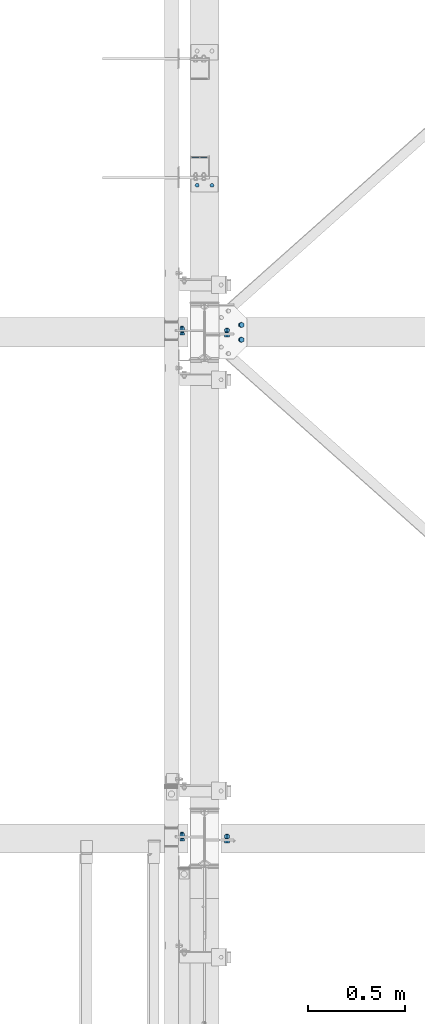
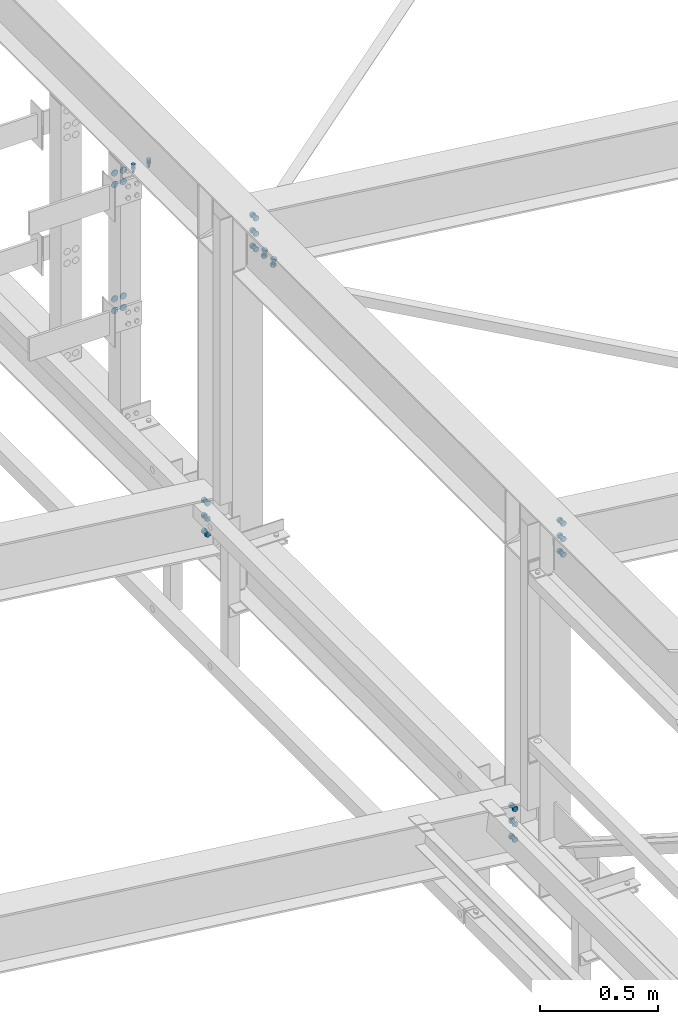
# One storey, part 145 of 3134: 8 mechanical fasteners, 6 elements without a shape of their own.
"""IFC2X3 building model written with IfcOpenShell, lengths in millimetres."""

import ifcopenshell
import ifcopenshell.guid

model = None  # the IFC model being written
_history = None  # IfcOwnerHistory: only IFC2X3 demands one
_inside = {}  # id of a spatial element -> (the spatial element, [elements in it])
_under = {}  # id of a project, library or spatial element -> (it, [spatial elements below it])
_declared = {}  # id of a project -> (the project, [libraries it declares])
_typed = {}  # id of a type object -> (the type object, [elements of that type])
_made_of = {}  # id of a material, layer set ... -> (it, [elements and type objects made of it])


def new_model(schema):
    """Start an empty IFC model of exactly this schema.

    Asked for "IFC4X3", IfcOpenShell would pick the latest addendum, in which some entities
    have other attributes; the version numbers below select the first issue.
    IFC2X3 requires an IfcOwnerHistory on every rooted entity: one is made here for all.
    """
    global model, _history
    if schema == "IFC4X3":
        model = ifcopenshell.file(schema_version=(4, 3, 0, 0))
    else:
        model = ifcopenshell.file(schema=schema)
    _inside.clear()
    _under.clear()
    _declared.clear()
    _typed.clear()
    _made_of.clear()
    _history = None
    if model.schema == "IFC2X3":
        org = make("IfcOrganization", Name="unknown")
        user = make(
            "IfcPersonAndOrganization",
            ThePerson=make("IfcPerson", FamilyName="unknown"),
            TheOrganization=org,
        )
        app = make(
            "IfcApplication",
            ApplicationDeveloper=org,
            Version="unknown",
            ApplicationFullName="unknown",
            ApplicationIdentifier="unknown",
        )
        _history = make(
            "IfcOwnerHistory",
            OwningUser=user,
            OwningApplication=app,
            ChangeAction="ADDED",
            CreationDate=0,
        )
    return model


def make(cls, **values):
    """One entity of the class cls with the attributes given. An attribute that is None is left unset."""
    return model.create_entity(
        cls, **{name: value for name, value in values.items() if value is not None}
    )


def rooted(cls, **values):
    """An entity with a GlobalId (a new one), such as an element, a storey or a relation."""
    return make(cls, GlobalId=ifcopenshell.guid.new(), OwnerHistory=_history, **values)


def si_unit(unit_type, name, prefix=None):
    """IfcSIUnit, for example si_unit("LENGTHUNIT", "METRE", prefix="MILLI")."""
    return make("IfcSIUnit", UnitType=unit_type, Prefix=prefix, Name=name)


def assignment(units):
    """IfcUnitAssignment: the units of a project."""
    return None if units is None else make("IfcUnitAssignment", Units=units)


def point(xyz):
    """IfcCartesianPoint."""
    return None if xyz is None else make("IfcCartesianPoint", Coordinates=xyz)


def direction(xyz):
    """IfcDirection."""
    return None if xyz is None else make("IfcDirection", DirectionRatios=xyz)


def frame(location, z_axis=None, x_axis=None):
    """IfcAxis2Placement3D, a coordinate frame: its origin and axes. An axis left out is left unset."""
    return make(
        "IfcAxis2Placement3D",
        Location=point(location),
        Axis=direction(z_axis),
        RefDirection=direction(x_axis),
    )


def origin_with_axes():
    """The frame at (0, 0, 0) with the z axis (0, 0, 1) and the x axis (1, 0, 0) written out."""
    return frame((0.0, 0.0, 0.0), z_axis=(0.0, 0.0, 1.0), x_axis=(1.0, 0.0, 0.0))


def place(relative_to, where):
    """IfcLocalPlacement: puts the frame where relative to a parent placement (None: the world)."""
    return make(
        "IfcLocalPlacement", PlacementRelTo=relative_to, RelativePlacement=where
    )


def context(
    kind, dimensions, precision=None, world=None, true_north=None, identifier=None
):
    """IfcGeometricRepresentationContext, for example the 3D "Model" context."""
    return make(
        "IfcGeometricRepresentationContext",
        ContextIdentifier=identifier,
        ContextType=kind,
        CoordinateSpaceDimension=dimensions,
        Precision=precision,
        WorldCoordinateSystem=world,
        TrueNorth=true_north,
    )


def subcontext(parent, identifier, kind, view, scale=None):
    """IfcGeometricRepresentationSubContext, for example "Body" below "Model"."""
    return make(
        "IfcGeometricRepresentationSubContext",
        ContextIdentifier=identifier,
        ContextType=kind,
        ParentContext=parent,
        TargetScale=scale,
        TargetView=view,
    )


def project(units=None, contexts=None):
    """IfcProject with its units and contexts."""
    return rooted(
        "IfcProject",
        Name="project",
        RepresentationContexts=contexts,
        UnitsInContext=assignment(units),
    )


def spatial(cls, under=None, at=None, **own):
    """A site, building, storey or space (cls), placed at a placement, below another one or the project."""
    s = rooted(cls, ObjectPlacement=at, **own)
    if under is not None:
        _under.setdefault(under.id(), (under, []))[1].append(s)
    return s


def faces_of(points, faces, orient=None, outer=None):
    """IfcFace entities. A face is a list of loops; a loop is a list of indices into points, from 0.

    orient and outer hold one flag for each loop. By default every Orientation is true, the
    first loop of a face is its IfcFaceOuterBound and the others are IfcFaceBound.
    """
    made = []
    for i, loops in enumerate(faces):
        bounds = []
        for j, loop in enumerate(loops):
            is_outer = j == 0 if outer is None else outer[i][j]
            bounds.append(
                make(
                    "IfcFaceOuterBound" if is_outer else "IfcFaceBound",
                    Bound=make("IfcPolyLoop", Polygon=[points[k] for k in loop]),
                    Orientation=True if orient is None else orient[i][j],
                )
            )
        made.append(make("IfcFace", Bounds=bounds))
    return made


def faceted_brep(points, faces, orient=None, outer=None, voids=None):
    """IfcFacetedBrep: a solid bounded by flat faces; with voids (closed shells), ...WithVoids."""
    shared = [point(p) for p in points]
    hull = make("IfcClosedShell", CfsFaces=faces_of(shared, faces, orient, outer))
    if voids is None:
        return make("IfcFacetedBrep", Outer=hull)
    return make(
        "IfcFacetedBrepWithVoids",
        Outer=hull,
        Voids=[
            make(cls, CfsFaces=faces_of(shared, fs, o, b)) for cls, fs, o, b in voids
        ],
    )


def shape(context_of_items, identifier, shape_type, items):
    """IfcShapeRepresentation: the items that make up one representation, for example the "Body"."""
    return make(
        "IfcShapeRepresentation",
        ContextOfItems=context_of_items,
        RepresentationIdentifier=identifier,
        RepresentationType=shape_type,
        Items=items,
    )


def source(mapping_origin, context_of_items, identifier, shape_type, items):
    """IfcRepresentationMap: a shape defined once, which mapped items show again and again."""
    return make(
        "IfcRepresentationMap",
        MappingOrigin=mapping_origin,
        MappedRepresentation=shape(context_of_items, identifier, shape_type, items),
    )


def transform(
    local_origin,
    x_axis=None,
    y_axis=None,
    z_axis=None,
    scale=None,
    scale2=None,
    scale3=None,
    uniform=True,
):
    """IfcCartesianTransformationOperator3D, or its non-uniform kind. x_axis, y_axis, z_axis: its Axis1, 2, 3."""
    if uniform:
        return make(
            "IfcCartesianTransformationOperator3D",
            Axis1=direction(x_axis),
            Axis2=direction(y_axis),
            LocalOrigin=point(local_origin),
            Scale=scale,
            Axis3=direction(z_axis),
        )
    return make(
        "IfcCartesianTransformationOperator3DnonUniform",
        Axis1=direction(x_axis),
        Axis2=direction(y_axis),
        LocalOrigin=point(local_origin),
        Scale=scale,
        Axis3=direction(z_axis),
        Scale2=scale2,
        Scale3=scale3,
    )


def mapped(mapping_source, mapping_target):
    """IfcMappedItem: shows the shape of a source again, moved by a transform."""
    return make(
        "IfcMappedItem", MappingSource=mapping_source, MappingTarget=mapping_target
    )


def material(Name=None, Category=None):
    """IfcMaterial."""
    return make("IfcMaterial", Name=Name, Category=Category)


def made_of(thing, what):
    """Note that an element or type object is made of a material, layer set ...; save() writes the relation."""
    if what is not None:
        _made_of.setdefault(what.id(), (what, []))[1].append(thing)
    return thing


def type_object(cls, material=None, **own):
    """A type object (cls), such as IfcWallType, which elements share."""
    return made_of(rooted(cls, **own), material)


def element(
    cls,
    number,
    at=None,
    inside=None,
    cuts=None,
    type_object=None,
    material=None,
    context=None,
    identifier="Body",
    shape_type=None,
    held_by="IfcProductDefinitionShape",
    body=None,
    shapes=None,
    **own,
):
    """One element of the class cls, such as IfcWall. Its Tag is "e" and its number.

    at: its placement. inside: the storey or other place that contains it. cuts: it is an
    opening in that element (IfcRelVoidsElement). A single representation is given by context,
    identifier, shape_type and body (its items); several are given by shapes. held_by: the class
    of the entity that holds the representations. save() writes the other relations.
    """
    e = rooted(cls, Tag="e%d" % number, ObjectPlacement=at, **own)
    if body is not None:
        shapes = [shape(context, identifier, shape_type, body)]
    if shapes is not None:
        e.Representation = make(held_by, Representations=shapes)
    if inside is not None:
        _inside.setdefault(inside.id(), (inside, []))[1].append(e)
    if cuts is not None:
        rooted(
            "IfcRelVoidsElement", RelatingBuildingElement=cuts, RelatedOpeningElement=e
        )
    if type_object is not None:
        _typed.setdefault(type_object.id(), (type_object, []))[1].append(e)
    return made_of(e, material)


def aggregate(whole, parts):
    """IfcRelAggregates: a whole, such as a stair, and the parts it consists of."""
    return rooted("IfcRelAggregates", RelatingObject=whole, RelatedObjects=parts)


def save(model, path):
    """Write the relations noted so far, then the file.

    IfcRelAggregates (storeys below a building ...), IfcRelContainedInSpatialStructure (elements
    in a storey), IfcRelDefinesByType, IfcRelAssociatesMaterial and IfcRelDeclares: one each for
    every whole, place, type object, material and project.
    """
    for whole, parts in _under.values():
        aggregate(whole, parts)
    for where, things in _inside.values():
        rooted(
            "IfcRelContainedInSpatialStructure",
            RelatedElements=things,
            RelatingStructure=where,
        )
    for kind, things in _typed.values():
        rooted("IfcRelDefinesByType", RelatedObjects=things, RelatingType=kind)
    for what, things in _made_of.values():
        rooted("IfcRelAssociatesMaterial", RelatedObjects=things, RelatingMaterial=what)
    for by, libraries in _declared.values():
        rooted("IfcRelDeclares", RelatingContext=by, RelatedDefinitions=libraries)
    model.write(path)


model = new_model("IFC2X3")

# Units and contexts
model_context = context("Model", 3, precision=1e-05, world=origin_with_axes())
body_context = subcontext(model_context, "Body", "Model", "MODEL_VIEW")
ifc_project = project(units=[si_unit("LENGTHUNIT", "METRE", prefix="MILLI"), si_unit("AREAUNIT", "SQUARE_METRE"), si_unit("VOLUMEUNIT", "CUBIC_METRE"), si_unit("MASSUNIT", "GRAM", prefix="KILO"), si_unit("TIMEUNIT", "SECOND"), si_unit("PLANEANGLEUNIT", "RADIAN"), si_unit("SOLIDANGLEUNIT", "STERADIAN"), si_unit("THERMODYNAMICTEMPERATUREUNIT", "DEGREE_CELSIUS"), si_unit("LUMINOUSINTENSITYUNIT", "LUMEN")], contexts=[model_context])

# Site, building, storey
site_placement = place(None, origin_with_axes())
site = spatial("IfcSite", under=ifc_project, at=site_placement, CompositionType="ELEMENT")
building_placement = place(site_placement, origin_with_axes())
building = spatial("IfcBuilding", under=site, at=building_placement, Name="Undefined", CompositionType="ELEMENT")
storey_placement = place(building_placement, origin_with_axes())
storey = spatial("IfcBuildingStorey", under=building, at=storey_placement, Name="Undefined", CompositionType="ELEMENT", Elevation=0.0)

# Assembly, mechanical fastener
assembly_1_placement = place(storey_placement, origin_with_axes())
assembly_1 = element("IfcElementAssembly", 1, at=assembly_1_placement, inside=storey, AssemblyPlace="NOTDEFINED", PredefinedType="RIGID_FRAME")
ifc_material = material(Name="8.8")
mechanical_fastener_type = type_object("IfcMechanicalFastenerType", Name="Bolt assembly")
shared_shape_1 = source(origin_with_axes(), body_context, "Body", "Brep", [
    faceted_brep([(10.9696551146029, -8.0, 0.0), (5.48482755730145, -8.0, 9.5), (-5.48482755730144, -8.0, 9.5), (-10.9696551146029, -8.0, 1.34339530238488e-15), (-5.48482755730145, -8.0, -9.5), (5.48482755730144, -8.0, -9.50000000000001), (5.48482755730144, 0.0, -9.50000000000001), (-5.48482755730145, 0.0, -9.5), (-10.9696551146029, 0.0, 1.34339530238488e-15), (-5.48482755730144, 0.0, 9.5), (5.48482755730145, 0.0, 9.5), (10.9696551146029, 0.0, 0.0), (6.0, 0.0, 0.0), (5.19615242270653, 0.0, 3.00000000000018), (2.99999999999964, 0.0, 5.19615242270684), (-6.21801588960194e-13, 0.0, 6.0), (-3.00000000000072, 0.0, 5.19615242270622), (-5.19615242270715, 0.0, 2.9999999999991), (-6.0, 0.0, -1.24360317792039e-12), (-5.19615242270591, 0.0, -3.00000000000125), (-2.99999999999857, 0.0, -5.19615242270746), (1.85874342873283e-12, 0.0, -6.0), (3.00000000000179, 0.0, -5.1961524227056), (5.19615242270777, 0.0, -2.99999999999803), (5.19615242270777, 35.0, -2.99999999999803), (3.00000000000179, 35.0, -5.1961524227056), (1.85874342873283e-12, 35.0, -6.0), (-2.99999999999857, 35.0, -5.19615242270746), (-5.19615242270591, 35.0, -3.00000000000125), (-6.0, 35.0, -1.24360317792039e-12), (-5.19615242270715, 35.0, 2.9999999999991), (-3.00000000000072, 35.0, 5.19615242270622), (-6.21801588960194e-13, 35.0, 6.0), (2.99999999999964, 35.0, 5.19615242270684), (5.19615242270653, 35.0, 3.00000000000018), (6.0, 35.0, 0.0), (10.9696551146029, 8.0, 0.0), (5.48482755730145, 8.0, 9.5), (-5.48482755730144, 8.0, 9.5), (-10.9696551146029, 8.0, 1.34339530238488e-15), (-5.48482755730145, 8.0, -9.5), (5.48482755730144, 8.0, -9.50000000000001), (5.48482755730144, 18.0, -9.50000000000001), (-5.48482755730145, 18.0, -9.5), (-10.9696551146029, 18.0, 1.34339530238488e-15), (-5.48482755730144, 18.0, 9.5), (5.48482755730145, 18.0, 9.5), (10.9696551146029, 18.0, 0.0)], [[[0, 1, 2, 3, 4, 5]], [[6, 7, 8, 9, 10, 11]], [[0, 11, 10, 1]], [[1, 10, 9, 2]], [[2, 9, 8, 3]], [[3, 8, 7, 4]], [[4, 7, 6, 5]], [[5, 6, 11, 0]], [[12, 13, 14, 15, 16, 17, 18, 19, 20, 21, 22, 23]], [[24, 25, 26, 27, 28, 29, 30, 31, 32, 33, 34, 35]], [[12, 35, 34, 13]], [[13, 34, 33, 14]], [[14, 33, 32, 15]], [[15, 32, 31, 16]], [[16, 31, 30, 17]], [[17, 30, 29, 18]], [[18, 29, 28, 19]], [[19, 28, 27, 20]], [[20, 27, 26, 21]], [[21, 26, 25, 22]], [[22, 25, 24, 23]], [[23, 24, 35, 12]], [[36, 37, 38, 39, 40, 41]], [[42, 43, 44, 45, 46, 47]], [[36, 47, 46, 37]], [[37, 46, 45, 38]], [[38, 45, 44, 39]], [[39, 44, 43, 40]], [[40, 43, 42, 41]], [[41, 42, 47, 36]]]),
    faceted_brep([(7.0, 0.0, 0.0), (6.06217782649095, 0.0, 3.50000000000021), (3.49999999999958, 0.0, 6.06217782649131), (-7.25435187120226e-13, 0.0, 7.0), (-3.50000000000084, 0.0, 6.06217782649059), (-6.06217782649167, 0.0, 3.49999999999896), (-7.0, 0.0, -1.45087037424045e-12), (-6.06217782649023, 0.0, -3.50000000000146), (-3.49999999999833, 0.0, -6.06217782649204), (2.1685340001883e-12, 0.0, -7.0), (3.50000000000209, 0.0, -6.06217782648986), (6.0621778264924, 0.0, -3.4999999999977), (6.0621778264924, 8.1, -3.4999999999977), (3.50000000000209, 8.1, -6.06217782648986), (2.1685340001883e-12, 8.1, -7.0), (-3.49999999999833, 8.1, -6.06217782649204), (-6.06217782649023, 8.1, -3.50000000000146), (-7.0, 8.1, -1.45087037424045e-12), (-6.06217782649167, 8.1, 3.49999999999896), (-3.50000000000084, 8.1, 6.06217782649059), (-7.25435187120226e-13, 8.1, 7.0), (3.49999999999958, 8.1, 6.06217782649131), (6.06217782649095, 8.1, 3.50000000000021), (7.0, 8.1, 0.0)], [[[0, 1, 2, 3, 4, 5, 6, 7, 8, 9, 10, 11]], [[12, 13, 14, 15, 16, 17, 18, 19, 20, 21, 22, 23]], [[0, 23, 22, 1]], [[1, 22, 21, 2]], [[2, 21, 20, 3]], [[3, 20, 19, 4]], [[4, 19, 18, 5]], [[5, 18, 17, 6]], [[6, 17, 16, 7]], [[7, 16, 15, 8]], [[8, 15, 14, 9]], [[9, 14, 13, 10]], [[10, 13, 12, 11]], [[11, 12, 23, 0]]]),
])
mechanical_fastener_1_placement = place(assembly_1_placement, frame((44162.0, 25405.0, 5593.0), z_axis=(0.0, 1.0, 0.0), x_axis=(1.0, 0.0, 0.0)))
mechanical_fastener_1 = element("IfcMechanicalFastener", 2, at=mechanical_fastener_1_placement, type_object=mechanical_fastener_type, material=ifc_material, Name="Bolt assembly", NominalDiameter=12.0, NominalLength=35.0, context=body_context, shape_type="MappedRepresentation", body=[
    mapped(shared_shape_1, transform((0.0, 0.0, 0.0))),
    mapped(shared_shape_1, transform((76.0, 0.0, 0.0))),
])
aggregate(assembly_1, [mechanical_fastener_1])

# Assembly, mechanical fasteners
assembly_2_placement = place(storey_placement, origin_with_axes())
assembly_2 = element("IfcElementAssembly", 3, at=assembly_2_placement, inside=storey, AssemblyPlace="NOTDEFINED", PredefinedType="RIGID_FRAME")
shared_shape_2 = source(origin_with_axes(), body_context, "Body", "Brep", [
    faceted_brep([(16.5, -4.0, 0.0), (14.289419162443, -4.0, 8.25000000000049), (8.24999999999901, -4.0, 14.2894191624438), (-1.70995436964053e-12, -4.0, 16.5), (-8.25000000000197, -4.0, 14.2894191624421), (-14.2894191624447, -4.0, 8.24999999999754), (-16.5, -4.0, -3.41990873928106e-12), (-14.2894191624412, -4.0, -8.25000000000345), (-8.24999999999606, -4.0, -14.2894191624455), (5.11154442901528e-12, -4.0, -16.5), (8.25000000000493, -4.0, -14.2894191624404), (14.2894191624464, -4.0, -8.24999999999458), (14.2894191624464, 0.1, -8.24999999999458), (8.25000000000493, 0.1, -14.2894191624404), (5.11154442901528e-12, 0.1, -16.5), (-8.24999999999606, 0.1, -14.2894191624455), (-14.2894191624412, 0.1, -8.25000000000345), (-16.5, 0.1, -3.41990873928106e-12), (-14.2894191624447, 0.1, 8.24999999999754), (-8.25000000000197, 0.1, 14.2894191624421), (-1.70995436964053e-12, 0.1, 16.5), (8.24999999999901, 0.1, 14.2894191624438), (14.289419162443, 0.1, 8.25000000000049), (16.5, 0.1, 0.0)], [[[0, 1, 2, 3, 4, 5, 6, 7, 8, 9, 10, 11]], [[12, 13, 14, 15, 16, 17, 18, 19, 20, 21, 22, 23]], [[0, 23, 22, 1]], [[1, 22, 21, 2]], [[2, 21, 20, 3]], [[3, 20, 19, 4]], [[4, 19, 18, 5]], [[5, 18, 17, 6]], [[6, 17, 16, 7]], [[7, 16, 15, 8]], [[8, 15, 14, 9]], [[9, 14, 13, 10]], [[10, 13, 12, 11]], [[11, 12, 23, 0]]]),
])
mechanical_fastener_2_placement = place(assembly_2_placement, frame((44175.0, 25550.0, 5470.0), z_axis=(1.0, 0.0, 0.0), x_axis=(0.0, 0.0, -1.0)))
mechanical_fastener_2 = element("IfcMechanicalFastener", 4, at=mechanical_fastener_2_placement, type_object=mechanical_fastener_type, material=ifc_material, Name="Bolt assembly", NominalDiameter=30.0, NominalLength=4.0, context=body_context, shape_type="MappedRepresentation", body=[
    mapped(shared_shape_2, transform((0.0, 0.0, -21.0))),
    mapped(shared_shape_2, transform((60.0, 0.0, -21.0))),
    mapped(shared_shape_2, transform((0.0, 0.0, 21.0))),
    mapped(shared_shape_2, transform((60.0, 0.0, 21.0))),
])
mechanical_fastener_3_placement = place(assembly_2_placement, frame((44175.0, 25550.0, 4820.0), z_axis=(1.0, 0.0, 0.0), x_axis=(0.0, 0.0, -1.0)))
mechanical_fastener_3 = element("IfcMechanicalFastener", 5, at=mechanical_fastener_3_placement, type_object=mechanical_fastener_type, material=ifc_material, Name="Bolt assembly", NominalDiameter=30.0, NominalLength=4.0, context=body_context, shape_type="MappedRepresentation", body=[
    mapped(shared_shape_2, transform((0.0, 0.0, -21.0))),
    mapped(shared_shape_2, transform((60.0, 0.0, -21.0))),
    mapped(shared_shape_2, transform((0.0, 0.0, 21.0))),
    mapped(shared_shape_2, transform((60.0, 0.0, 21.0))),
])
aggregate(assembly_2, [mechanical_fastener_2, mechanical_fastener_3])

# Assembly, mechanical fastener
assembly_3_placement = place(storey_placement, origin_with_axes())
assembly_3 = element("IfcElementAssembly", 6, at=assembly_3_placement, inside=storey, Name="300", AssemblyPlace="NOTDEFINED", PredefinedType="RIGID_FRAME")
shared_shape_3 = source(origin_with_axes(), body_context, "Body", "Brep", [
    faceted_brep([(13.856406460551, -19.199990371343, 0.0), (6.92820323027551, -19.199990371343, 12.0), (-6.92820323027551, -19.199990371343, 12.0), (-13.856406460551, -19.199990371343, 1.69692038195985e-15), (-6.92820323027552, -19.199990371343, -12.0), (6.9282032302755, -19.199990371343, -12.0), (6.9282032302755, -9.19999037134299, -12.0), (-6.92820323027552, -9.19999037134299, -12.0), (-13.856406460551, -9.19999037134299, 1.69692038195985e-15), (-6.92820323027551, -9.19999037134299, 12.0), (6.92820323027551, -9.19999037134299, 12.0), (13.856406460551, -9.19999037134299, 0.0), (8.0, -9.19999037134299, 0.0), (6.92820323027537, -9.19999037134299, 4.00000000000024), (3.99999999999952, -9.19999037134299, 6.92820323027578), (-8.29068785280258e-13, -9.19999037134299, 8.0), (-4.00000000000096, -9.19999037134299, 6.92820323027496), (-6.9282032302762, -9.19999037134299, 3.99999999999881), (-8.0, -9.19999037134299, -1.65813757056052e-12), (-6.92820323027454, -9.19999037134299, -4.00000000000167), (-3.99999999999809, -9.19999037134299, -6.92820323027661), (2.47832457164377e-12, -9.19999037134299, -8.0), (4.00000000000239, -9.19999037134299, -6.92820323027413), (6.92820323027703, -9.19999037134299, -3.99999999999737), (6.92820323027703, 25.800009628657, -3.99999999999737), (4.00000000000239, 25.800009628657, -6.92820323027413), (2.47832457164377e-12, 25.800009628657, -8.0), (-3.99999999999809, 25.800009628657, -6.92820323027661), (-6.92820323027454, 25.800009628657, -4.00000000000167), (-8.0, 25.800009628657, -1.65813757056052e-12), (-6.9282032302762, 25.800009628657, 3.99999999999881), (-4.00000000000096, 25.800009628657, 6.92820323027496), (-8.29068785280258e-13, 25.800009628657, 8.0), (3.99999999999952, 25.800009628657, 6.92820323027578), (6.92820323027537, 25.800009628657, 4.00000000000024), (8.0, 25.800009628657, 0.0), (13.856406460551, 8.00000637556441, 0.0), (6.92820323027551, 8.00000637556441, 12.0), (-6.92820323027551, 8.00000637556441, 12.0), (-13.856406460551, 8.00000637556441, 1.69692038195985e-15), (-6.92820323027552, 8.00000637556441, -12.0), (6.9282032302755, 8.00000637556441, -12.0), (6.9282032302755, 21.0000063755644, -12.0), (-6.92820323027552, 21.0000063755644, -12.0), (-13.856406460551, 21.0000063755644, 1.69692038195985e-15), (-6.92820323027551, 21.0000063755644, 12.0), (6.92820323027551, 21.0000063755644, 12.0), (13.856406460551, 21.0000063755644, 0.0)], [[[0, 1, 2, 3, 4, 5]], [[6, 7, 8, 9, 10, 11]], [[0, 11, 10, 1]], [[1, 10, 9, 2]], [[2, 9, 8, 3]], [[3, 8, 7, 4]], [[4, 7, 6, 5]], [[5, 6, 11, 0]], [[12, 13, 14, 15, 16, 17, 18, 19, 20, 21, 22, 23]], [[24, 25, 26, 27, 28, 29, 30, 31, 32, 33, 34, 35]], [[12, 35, 34, 13]], [[13, 34, 33, 14]], [[14, 33, 32, 15]], [[15, 32, 31, 16]], [[16, 31, 30, 17]], [[17, 30, 29, 18]], [[18, 29, 28, 19]], [[19, 28, 27, 20]], [[20, 27, 26, 21]], [[21, 26, 25, 22]], [[22, 25, 24, 23]], [[23, 24, 35, 12]], [[36, 37, 38, 39, 40, 41]], [[42, 43, 44, 45, 46, 47]], [[36, 47, 46, 37]], [[37, 46, 45, 38]], [[38, 45, 44, 39]], [[39, 44, 43, 40]], [[40, 43, 42, 41]], [[41, 42, 47, 36]]]),
    faceted_brep([(9.0, -0.1, 0.0), (7.79422863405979, -0.1, 4.50000000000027), (4.49999999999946, -0.1, 7.79422863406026), (-9.3270238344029e-13, -0.1, 9.0), (-4.50000000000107, -0.1, 7.79422863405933), (-7.79422863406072, -0.1, 4.49999999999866), (-9.0, -0.1, -1.86540476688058e-12), (-7.79422863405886, -0.1, -4.50000000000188), (-4.49999999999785, -0.1, -7.79422863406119), (2.78811514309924e-12, -0.1, -9.0), (4.50000000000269, -0.1, -7.7942286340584), (7.79422863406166, -0.1, -4.49999999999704), (7.79422863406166, 8.00000000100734, -4.49999999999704), (4.50000000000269, 8.00000000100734, -7.7942286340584), (2.78811514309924e-12, 8.00000000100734, -9.0), (-4.49999999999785, 8.00000000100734, -7.79422863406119), (-7.79422863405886, 8.00000000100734, -4.50000000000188), (-9.0, 8.00000000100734, -1.86540476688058e-12), (-7.79422863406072, 8.00000000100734, 4.49999999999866), (-4.50000000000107, 8.00000000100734, 7.79422863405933), (-9.3270238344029e-13, 8.00000000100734, 9.0), (4.49999999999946, 8.00000000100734, 7.79422863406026), (7.79422863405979, 8.00000000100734, 4.50000000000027), (9.0, 8.00000000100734, 0.0), (9.0, -9.09999037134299, 0.0), (7.79422863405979, -9.09999037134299, 4.50000000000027), (4.49999999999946, -9.09999037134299, 7.79422863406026), (-9.3270238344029e-13, -9.09999037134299, 9.0), (-4.50000000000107, -9.09999037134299, 7.79422863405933), (-7.79422863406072, -9.09999037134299, 4.49999999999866), (-9.0, -9.09999037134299, -1.86540476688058e-12), (-7.79422863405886, -9.09999037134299, -4.50000000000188), (-4.49999999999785, -9.09999037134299, -7.79422863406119), (2.78811514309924e-12, -9.09999037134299, -9.0), (4.50000000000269, -9.09999037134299, -7.7942286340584), (7.79422863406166, -9.09999037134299, -4.49999999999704), (7.79422863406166, 0.100000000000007, -4.49999999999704), (4.50000000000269, 0.100000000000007, -7.7942286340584), (2.78811514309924e-12, 0.100000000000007, -9.0), (-4.49999999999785, 0.100000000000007, -7.79422863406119), (-7.79422863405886, 0.100000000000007, -4.50000000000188), (-9.0, 0.100000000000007, -1.86540476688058e-12), (-7.79422863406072, 0.100000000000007, 4.49999999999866), (-4.50000000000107, 0.100000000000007, 7.79422863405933), (-9.3270238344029e-13, 0.100000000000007, 9.0), (4.49999999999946, 0.100000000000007, 7.79422863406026), (7.79422863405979, 0.100000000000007, 4.50000000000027), (9.0, 0.100000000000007, 0.0)], [[[0, 1, 2, 3, 4, 5, 6, 7, 8, 9, 10, 11]], [[12, 13, 14, 15, 16, 17, 18, 19, 20, 21, 22, 23]], [[0, 23, 22, 1]], [[1, 22, 21, 2]], [[2, 21, 20, 3]], [[3, 20, 19, 4]], [[4, 19, 18, 5]], [[5, 18, 17, 6]], [[6, 17, 16, 7]], [[7, 16, 15, 8]], [[8, 15, 14, 9]], [[9, 14, 13, 10]], [[10, 13, 12, 11]], [[11, 12, 23, 0]], [[24, 25, 26, 27, 28, 29, 30, 31, 32, 33, 34, 35]], [[36, 37, 38, 39, 40, 41, 42, 43, 44, 45, 46, 47]], [[24, 47, 46, 25]], [[25, 46, 45, 26]], [[26, 45, 44, 27]], [[27, 44, 43, 28]], [[28, 43, 42, 29]], [[29, 42, 41, 30]], [[30, 41, 40, 31]], [[31, 40, 39, 32]], [[32, 39, 38, 33]], [[33, 38, 37, 34]], [[34, 37, 36, 35]], [[35, 36, 47, 24]]]),
])
mechanical_fastener_4_placement = place(assembly_3_placement, frame((44389.2248161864, 24687.9995130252, 5496.68063426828), z_axis=(0.992623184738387, 1.63108538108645e-05, -0.12124031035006), x_axis=(1.62000016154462e-05, -0.999999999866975, -1.90000018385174e-06)))
mechanical_fastener_4 = element("IfcMechanicalFastener", 7, at=mechanical_fastener_4_placement, type_object=mechanical_fastener_type, material=ifc_material, Name="Bolt assembly", NominalDiameter=16.0, NominalLength=35.0, context=body_context, shape_type="MappedRepresentation", body=[
    mapped(shared_shape_3, transform((0.0, 0.0, 0.0))),
    mapped(shared_shape_3, transform((76.0, 0.0, 0.0))),
])

assembly_4_placement = place(storey_placement, origin_with_axes())
assembly_4 = element("IfcElementAssembly", 8, at=assembly_4_placement, inside=storey, Name="300", AssemblyPlace="NOTDEFINED", PredefinedType="RIGID_FRAME")
shared_shape_4 = source(origin_with_axes(), body_context, "Body", "Brep", [
    faceted_brep([(13.856406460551, -13.0499999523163, 0.0), (6.92820323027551, -13.0499999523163, 12.0), (-6.92820323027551, -13.0499999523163, 12.0), (-13.856406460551, -13.0499999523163, 1.69692038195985e-15), (-6.92820323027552, -13.0499999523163, -12.0), (6.9282032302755, -13.0499999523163, -12.0), (6.9282032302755, -3.04999995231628, -12.0), (-6.92820323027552, -3.04999995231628, -12.0), (-13.856406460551, -3.04999995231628, 1.69692038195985e-15), (-6.92820323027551, -3.04999995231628, 12.0), (6.92820323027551, -3.04999995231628, 12.0), (13.856406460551, -3.04999995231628, 0.0), (8.0, -3.04999995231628, 0.0), (6.92820323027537, -3.04999995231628, 4.00000000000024), (3.99999999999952, -3.04999995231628, 6.92820323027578), (-8.29068785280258e-13, -3.04999995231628, 8.0), (-4.00000000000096, -3.04999995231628, 6.92820323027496), (-6.9282032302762, -3.04999995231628, 3.99999999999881), (-8.0, -3.04999995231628, -1.65813757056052e-12), (-6.92820323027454, -3.04999995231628, -4.00000000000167), (-3.99999999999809, -3.04999995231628, -6.92820323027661), (2.47832457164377e-12, -3.04999995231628, -8.0), (4.00000000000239, -3.04999995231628, -6.92820323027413), (6.92820323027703, -3.04999995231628, -3.99999999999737), (6.92820323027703, 31.9500000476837, -3.99999999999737), (4.00000000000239, 31.9500000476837, -6.92820323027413), (2.47832457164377e-12, 31.9500000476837, -8.0), (-3.99999999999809, 31.9500000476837, -6.92820323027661), (-6.92820323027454, 31.9500000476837, -4.00000000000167), (-8.0, 31.9500000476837, -1.65813757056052e-12), (-6.9282032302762, 31.9500000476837, 3.99999999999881), (-4.00000000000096, 31.9500000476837, 6.92820323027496), (-8.29068785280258e-13, 31.9500000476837, 8.0), (3.99999999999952, 31.9500000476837, 6.92820323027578), (6.92820323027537, 31.9500000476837, 4.00000000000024), (8.0, 31.9500000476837, 0.0), (13.856406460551, 13.0500000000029, 0.0), (6.92820323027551, 13.0500000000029, 12.0), (-6.92820323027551, 13.0500000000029, 12.0), (-13.856406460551, 13.0500000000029, 1.69692038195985e-15), (-6.92820323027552, 13.0500000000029, -12.0), (6.9282032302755, 13.0500000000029, -12.0), (6.9282032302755, 26.0500000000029, -12.0), (-6.92820323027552, 26.0500000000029, -12.0), (-13.856406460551, 26.0500000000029, 1.69692038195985e-15), (-6.92820323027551, 26.0500000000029, 12.0), (6.92820323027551, 26.0500000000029, 12.0), (13.856406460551, 26.0500000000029, 0.0)], [[[0, 1, 2, 3, 4, 5]], [[6, 7, 8, 9, 10, 11]], [[0, 11, 10, 1]], [[1, 10, 9, 2]], [[2, 9, 8, 3]], [[3, 8, 7, 4]], [[4, 7, 6, 5]], [[5, 6, 11, 0]], [[12, 13, 14, 15, 16, 17, 18, 19, 20, 21, 22, 23]], [[24, 25, 26, 27, 28, 29, 30, 31, 32, 33, 34, 35]], [[12, 35, 34, 13]], [[13, 34, 33, 14]], [[14, 33, 32, 15]], [[15, 32, 31, 16]], [[16, 31, 30, 17]], [[17, 30, 29, 18]], [[18, 29, 28, 19]], [[19, 28, 27, 20]], [[20, 27, 26, 21]], [[21, 26, 25, 22]], [[22, 25, 24, 23]], [[23, 24, 35, 12]], [[36, 37, 38, 39, 40, 41]], [[42, 43, 44, 45, 46, 47]], [[36, 47, 46, 37]], [[37, 46, 45, 38]], [[38, 45, 44, 39]], [[39, 44, 43, 40]], [[40, 43, 42, 41]], [[41, 42, 47, 36]]]),
    faceted_brep([(9.0, 2.95000000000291, 0.0), (7.79422863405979, 2.95000000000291, 4.50000000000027), (4.49999999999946, 2.95000000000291, 7.79422863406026), (-9.3270238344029e-13, 2.95000000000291, 9.0), (-4.50000000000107, 2.95000000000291, 7.79422863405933), (-7.79422863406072, 2.95000000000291, 4.49999999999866), (-9.0, 2.95000000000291, -1.86540476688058e-12), (-7.79422863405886, 2.95000000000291, -4.50000000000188), (-4.49999999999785, 2.95000000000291, -7.79422863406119), (2.78811514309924e-12, 2.95000000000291, -9.0), (4.50000000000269, 2.95000000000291, -7.7942286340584), (7.79422863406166, 2.95000000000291, -4.49999999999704), (7.79422863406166, 13.0500000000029, -4.49999999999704), (4.50000000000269, 13.0500000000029, -7.7942286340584), (2.78811514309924e-12, 13.0500000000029, -9.0), (-4.49999999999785, 13.0500000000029, -7.79422863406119), (-7.79422863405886, 13.0500000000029, -4.50000000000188), (-9.0, 13.0500000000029, -1.86540476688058e-12), (-7.79422863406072, 13.0500000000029, 4.49999999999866), (-4.50000000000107, 13.0500000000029, 7.79422863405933), (-9.3270238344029e-13, 13.0500000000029, 9.0), (4.49999999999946, 13.0500000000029, 7.79422863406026), (7.79422863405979, 13.0500000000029, 4.50000000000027), (9.0, 13.0500000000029, 0.0), (9.0, -2.94999995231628, 0.0), (7.79422863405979, -2.94999995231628, 4.50000000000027), (4.49999999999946, -2.94999995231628, 7.79422863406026), (-9.3270238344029e-13, -2.94999995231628, 9.0), (-4.50000000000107, -2.94999995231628, 7.79422863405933), (-7.79422863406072, -2.94999995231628, 4.49999999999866), (-9.0, -2.94999995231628, -1.86540476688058e-12), (-7.79422863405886, -2.94999995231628, -4.50000000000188), (-4.49999999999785, -2.94999995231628, -7.79422863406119), (2.78811514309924e-12, -2.94999995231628, -9.0), (4.50000000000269, -2.94999995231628, -7.7942286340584), (7.79422863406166, -2.94999995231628, -4.49999999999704), (7.79422863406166, 3.14999995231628, -4.49999999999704), (4.50000000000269, 3.14999995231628, -7.7942286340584), (2.78811514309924e-12, 3.14999995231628, -9.0), (-4.49999999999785, 3.14999995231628, -7.79422863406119), (-7.79422863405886, 3.14999995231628, -4.50000000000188), (-9.0, 3.14999995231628, -1.86540476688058e-12), (-7.79422863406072, 3.14999995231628, 4.49999999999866), (-4.50000000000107, 3.14999995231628, 7.79422863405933), (-9.3270238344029e-13, 3.14999995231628, 9.0), (4.49999999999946, 3.14999995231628, 7.79422863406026), (7.79422863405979, 3.14999995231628, 4.50000000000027), (9.0, 3.14999995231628, 0.0)], [[[0, 1, 2, 3, 4, 5, 6, 7, 8, 9, 10, 11]], [[12, 13, 14, 15, 16, 17, 18, 19, 20, 21, 22, 23]], [[0, 23, 22, 1]], [[1, 22, 21, 2]], [[2, 21, 20, 3]], [[3, 20, 19, 4]], [[4, 19, 18, 5]], [[5, 18, 17, 6]], [[6, 17, 16, 7]], [[7, 16, 15, 8]], [[8, 15, 14, 9]], [[9, 14, 13, 10]], [[10, 13, 12, 11]], [[11, 12, 23, 0]], [[24, 25, 26, 27, 28, 29, 30, 31, 32, 33, 34, 35]], [[36, 37, 38, 39, 40, 41, 42, 43, 44, 45, 46, 47]], [[24, 47, 46, 25]], [[25, 46, 45, 26]], [[26, 45, 44, 27]], [[27, 44, 43, 28]], [[28, 43, 42, 29]], [[29, 42, 41, 30]], [[30, 41, 40, 31]], [[31, 40, 39, 32]], [[32, 39, 38, 33]], [[33, 38, 37, 34]], [[34, 37, 36, 35]], [[35, 36, 47, 24]]]),
])
mechanical_fastener_5_placement = place(assembly_4_placement, frame((44085.0, 24650.0, 4337.44269270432), z_axis=(1.0, 0.0, 0.0), x_axis=(0.0, 0.0, -1.0)))
mechanical_fastener_5 = element("IfcMechanicalFastener", 9, at=mechanical_fastener_5_placement, type_object=mechanical_fastener_type, material=ifc_material, Name="Bolt assembly", NominalDiameter=16.0, NominalLength=35.0, context=body_context, shape_type="MappedRepresentation", body=[
    mapped(shared_shape_4, transform((0.0, 0.0, 0.0))),
    mapped(shared_shape_4, transform((80.0, 0.0, 0.0))),
    mapped(shared_shape_4, transform((160.0, 0.0, 0.0))),
])
aggregate(assembly_4, [mechanical_fastener_5])

assembly_5_placement = place(storey_placement, origin_with_axes())
assembly_5 = element("IfcElementAssembly", 10, at=assembly_5_placement, inside=storey, Name="300", AssemblyPlace="NOTDEFINED", PredefinedType="RIGID_FRAME")
mechanical_fastener_6_placement = place(assembly_5_placement, frame((44085.0, 22050.0, 4337.44269270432), z_axis=(1.0, 0.0, 0.0), x_axis=(0.0, 0.0, -1.0)))
mechanical_fastener_6 = element("IfcMechanicalFastener", 11, at=mechanical_fastener_6_placement, type_object=mechanical_fastener_type, material=ifc_material, Name="Bolt assembly", NominalDiameter=16.0, NominalLength=35.0, context=body_context, shape_type="MappedRepresentation", body=[
    mapped(shared_shape_4, transform((0.0, 0.0, 0.0))),
    mapped(shared_shape_4, transform((80.0, 0.0, 0.0))),
    mapped(shared_shape_4, transform((160.0, 0.0, 0.0))),
])
aggregate(assembly_5, [mechanical_fastener_6])

assembly_6_placement = place(storey_placement, origin_with_axes())
assembly_6 = element("IfcElementAssembly", 12, at=assembly_6_placement, inside=storey, Name="300", AssemblyPlace="NOTDEFINED", PredefinedType="RIGID_FRAME")
shared_shape_5 = source(origin_with_axes(), body_context, "Body", "Brep", [
    faceted_brep([(13.856406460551, -23.0499999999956, 0.0), (6.92820323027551, -23.0499999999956, 12.0), (-6.92820323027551, -23.0499999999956, 12.0), (-13.856406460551, -23.0499999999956, 1.69692038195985e-15), (-6.92820323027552, -23.0499999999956, -12.0), (6.9282032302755, -23.0499999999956, -12.0), (6.9282032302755, -13.0499999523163, -12.0), (-6.92820323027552, -13.0499999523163, -12.0), (-13.856406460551, -13.0499999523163, 1.69692038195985e-15), (-6.92820323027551, -13.0499999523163, 12.0), (6.92820323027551, -13.0499999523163, 12.0), (13.856406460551, -13.0499999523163, 0.0), (8.0, -13.0499999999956, 0.0), (6.92820323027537, -13.0499999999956, 4.00000000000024), (3.99999999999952, -13.0499999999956, 6.92820323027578), (-8.29068785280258e-13, -13.0499999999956, 8.0), (-4.00000000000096, -13.0499999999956, 6.92820323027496), (-6.9282032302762, -13.0499999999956, 3.99999999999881), (-8.0, -13.0499999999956, -1.65813757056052e-12), (-6.92820323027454, -13.0499999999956, -4.00000000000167), (-3.99999999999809, -13.0499999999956, -6.92820323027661), (2.47832457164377e-12, -13.0499999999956, -8.0), (4.00000000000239, -13.0499999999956, -6.92820323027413), (6.92820323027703, -13.0499999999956, -3.99999999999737), (6.92820323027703, 21.9500000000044, -3.99999999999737), (4.00000000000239, 21.9500000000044, -6.92820323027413), (2.47832457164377e-12, 21.9500000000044, -8.0), (-3.99999999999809, 21.9500000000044, -6.92820323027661), (-6.92820323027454, 21.9500000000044, -4.00000000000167), (-8.0, 21.9500000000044, -1.65813757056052e-12), (-6.9282032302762, 21.9500000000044, 3.99999999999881), (-4.00000000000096, 21.9500000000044, 6.92820323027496), (-8.29068785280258e-13, 21.9500000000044, 8.0), (3.99999999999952, 21.9500000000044, 6.92820323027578), (6.92820323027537, 21.9500000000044, 4.00000000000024), (8.0, 21.9500000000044, 0.0), (13.856406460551, 3.04999995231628, 0.0), (6.92820323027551, 3.04999995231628, 12.0), (-6.92820323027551, 3.04999995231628, 12.0), (-13.856406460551, 3.04999995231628, 1.69692038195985e-15), (-6.92820323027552, 3.04999995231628, -12.0), (6.9282032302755, 3.04999995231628, -12.0), (6.9282032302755, 16.0499999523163, -12.0), (-6.92820323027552, 16.0499999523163, -12.0), (-13.856406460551, 16.0499999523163, 1.69692038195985e-15), (-6.92820323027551, 16.0499999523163, 12.0), (6.92820323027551, 16.0499999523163, 12.0), (13.856406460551, 16.0499999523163, 0.0)], [[[0, 1, 2, 3, 4, 5]], [[6, 7, 8, 9, 10, 11]], [[0, 11, 10, 1]], [[1, 10, 9, 2]], [[2, 9, 8, 3]], [[3, 8, 7, 4]], [[4, 7, 6, 5]], [[5, 6, 11, 0]], [[12, 13, 14, 15, 16, 17, 18, 19, 20, 21, 22, 23]], [[24, 25, 26, 27, 28, 29, 30, 31, 32, 33, 34, 35]], [[12, 35, 34, 13]], [[13, 34, 33, 14]], [[14, 33, 32, 15]], [[15, 32, 31, 16]], [[16, 31, 30, 17]], [[17, 30, 29, 18]], [[18, 29, 28, 19]], [[19, 28, 27, 20]], [[20, 27, 26, 21]], [[21, 26, 25, 22]], [[22, 25, 24, 23]], [[23, 24, 35, 12]], [[36, 37, 38, 39, 40, 41]], [[42, 43, 44, 45, 46, 47]], [[36, 47, 46, 37]], [[37, 46, 45, 38]], [[38, 45, 44, 39]], [[39, 44, 43, 40]], [[40, 43, 42, 41]], [[41, 42, 47, 36]]]),
    faceted_brep([(9.0, -12.9499999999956, 0.0), (7.79422863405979, -12.9499999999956, 4.50000000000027), (4.49999999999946, -12.9499999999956, 7.79422863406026), (-9.3270238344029e-13, -12.9499999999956, 9.0), (-4.50000000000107, -12.9499999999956, 7.79422863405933), (-7.79422863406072, -12.9499999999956, 4.49999999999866), (-9.0, -12.9499999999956, -1.86540476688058e-12), (-7.79422863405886, -12.9499999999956, -4.50000000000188), (-4.49999999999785, -12.9499999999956, -7.79422863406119), (2.78811514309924e-12, -12.9499999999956, -9.0), (4.50000000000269, -12.9499999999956, -7.7942286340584), (7.79422863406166, -12.9499999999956, -4.49999999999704), (7.79422863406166, -2.94999995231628, -4.49999999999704), (4.50000000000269, -2.94999995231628, -7.7942286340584), (2.78811514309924e-12, -2.94999995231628, -9.0), (-4.49999999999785, -2.94999995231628, -7.79422863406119), (-7.79422863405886, -2.94999995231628, -4.50000000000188), (-9.0, -2.94999995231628, -1.86540476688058e-12), (-7.79422863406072, -2.94999995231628, 4.49999999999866), (-4.50000000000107, -2.94999995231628, 7.79422863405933), (-9.3270238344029e-13, -2.94999995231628, 9.0), (4.49999999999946, -2.94999995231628, 7.79422863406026), (7.79422863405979, -2.94999995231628, 4.50000000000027), (9.0, -2.94999995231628, 0.0), (9.0, -3.14999995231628, 0.0), (7.79422863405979, -3.14999995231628, 4.50000000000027), (4.49999999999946, -3.14999995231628, 7.79422863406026), (-9.3270238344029e-13, -3.14999995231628, 9.0), (-4.50000000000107, -3.14999995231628, 7.79422863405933), (-7.79422863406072, -3.14999995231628, 4.49999999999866), (-9.0, -3.14999995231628, -1.86540476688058e-12), (-7.79422863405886, -3.14999995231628, -4.50000000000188), (-4.49999999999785, -3.14999995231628, -7.79422863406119), (2.78811514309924e-12, -3.14999995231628, -9.0), (4.50000000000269, -3.14999995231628, -7.7942286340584), (7.79422863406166, -3.14999995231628, -4.49999999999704), (7.79422863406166, 3.04999995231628, -4.49999999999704), (4.50000000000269, 3.04999995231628, -7.7942286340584), (2.78811514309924e-12, 3.04999995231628, -9.0), (-4.49999999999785, 3.04999995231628, -7.79422863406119), (-7.79422863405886, 3.04999995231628, -4.50000000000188), (-9.0, 3.04999995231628, -1.86540476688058e-12), (-7.79422863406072, 3.04999995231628, 4.49999999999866), (-4.50000000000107, 3.04999995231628, 7.79422863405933), (-9.3270238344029e-13, 3.04999995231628, 9.0), (4.49999999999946, 3.04999995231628, 7.79422863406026), (7.79422863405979, 3.04999995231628, 4.50000000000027), (9.0, 3.04999995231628, 0.0)], [[[0, 1, 2, 3, 4, 5, 6, 7, 8, 9, 10, 11]], [[12, 13, 14, 15, 16, 17, 18, 19, 20, 21, 22, 23]], [[0, 23, 22, 1]], [[1, 22, 21, 2]], [[2, 21, 20, 3]], [[3, 20, 19, 4]], [[4, 19, 18, 5]], [[5, 18, 17, 6]], [[6, 17, 16, 7]], [[7, 16, 15, 8]], [[8, 15, 14, 9]], [[9, 14, 13, 10]], [[10, 13, 12, 11]], [[11, 12, 23, 0]], [[24, 25, 26, 27, 28, 29, 30, 31, 32, 33, 34, 35]], [[36, 37, 38, 39, 40, 41, 42, 43, 44, 45, 46, 47]], [[24, 47, 46, 25]], [[25, 46, 45, 26]], [[26, 45, 44, 27]], [[27, 44, 43, 28]], [[28, 43, 42, 29]], [[29, 42, 41, 30]], [[30, 41, 40, 31]], [[31, 40, 39, 32]], [[32, 39, 38, 33]], [[33, 38, 37, 34]], [[34, 37, 36, 35]], [[35, 36, 47, 24]]]),
])
mechanical_fastener_7_placement = place(assembly_6_placement, frame((44315.0, 22050.0, 5735.35014950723), z_axis=(1.0, 0.0, 0.0), x_axis=(0.0, 0.0, -1.0)))
mechanical_fastener_7 = element("IfcMechanicalFastener", 13, at=mechanical_fastener_7_placement, type_object=mechanical_fastener_type, material=ifc_material, Name="Bolt assembly", NominalDiameter=16.0, NominalLength=35.0, context=body_context, shape_type="MappedRepresentation", body=[
    mapped(shared_shape_5, transform((0.0, 0.0, 0.0))),
    mapped(shared_shape_5, transform((80.0, 0.0, 0.0))),
    mapped(shared_shape_5, transform((160.0, 0.0, 0.0))),
])
aggregate(assembly_6, [mechanical_fastener_7])

# Mechanical fastener
mechanical_fastener_8_placement = place(assembly_3_placement, frame((44315.0, 24650.0, 5735.35014950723), z_axis=(1.0, 0.0, 0.0), x_axis=(0.0, 0.0, -1.0)))
mechanical_fastener_8 = element("IfcMechanicalFastener", 14, at=mechanical_fastener_8_placement, type_object=mechanical_fastener_type, material=ifc_material, Name="Bolt assembly", NominalDiameter=16.0, NominalLength=35.0, context=body_context, shape_type="MappedRepresentation", body=[
    mapped(shared_shape_5, transform((0.0, 0.0, 0.0))),
    mapped(shared_shape_5, transform((80.0, 0.0, 0.0))),
    mapped(shared_shape_5, transform((160.0, 0.0, 0.0))),
])

aggregate(assembly_3, [mechanical_fastener_8, mechanical_fastener_4])

save(model, "model.ifc")
